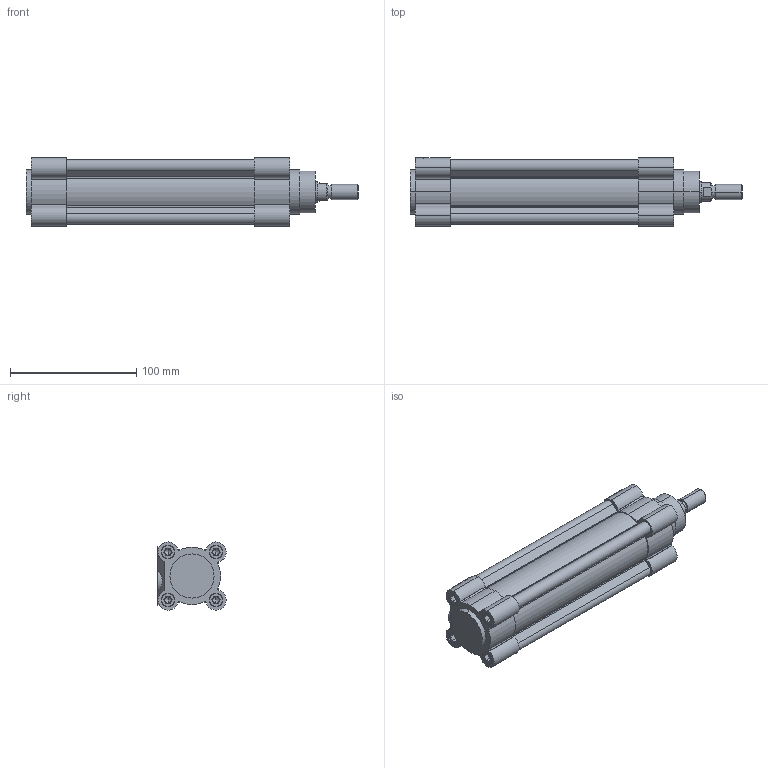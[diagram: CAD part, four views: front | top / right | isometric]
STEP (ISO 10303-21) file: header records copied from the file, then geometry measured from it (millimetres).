
FILE_DESCRIPTION (( 'STEP AP203' ), '1' );
FILE_NAME ('CPME40-100.STEP', '2023-05-25T13:38:01', ( '' ), ( '' ), 'SwSTEP 2.0', 'SolidWorks 2019', '' );
FILE_SCHEMA (( 'CONFIG_CONTROL_DESIGN' ));
Length unit declared in the file: millimetre
Products named in the file (1): CPME40-100
Bounding box: 263 x 53.99 x 53.99 mm (x, y, z)
Volume: 348413.6 mm3; surface area: 115368.3 mm2
Topology: 4 solids, 4 shells, 400 faces, 985 edges, 610 vertices
Faces by surface type: plane 191, cylinder 165, cone 44
Entity records: 11744 total; most frequent: DIRECTION 2149, CARTESIAN_POINT 2006, ORIENTED_EDGE 1930, EDGE_CURVE 965, AXIS2_PLACEMENT_3D 793, VERTEX_POINT 610, VECTOR 563, LINE 563
